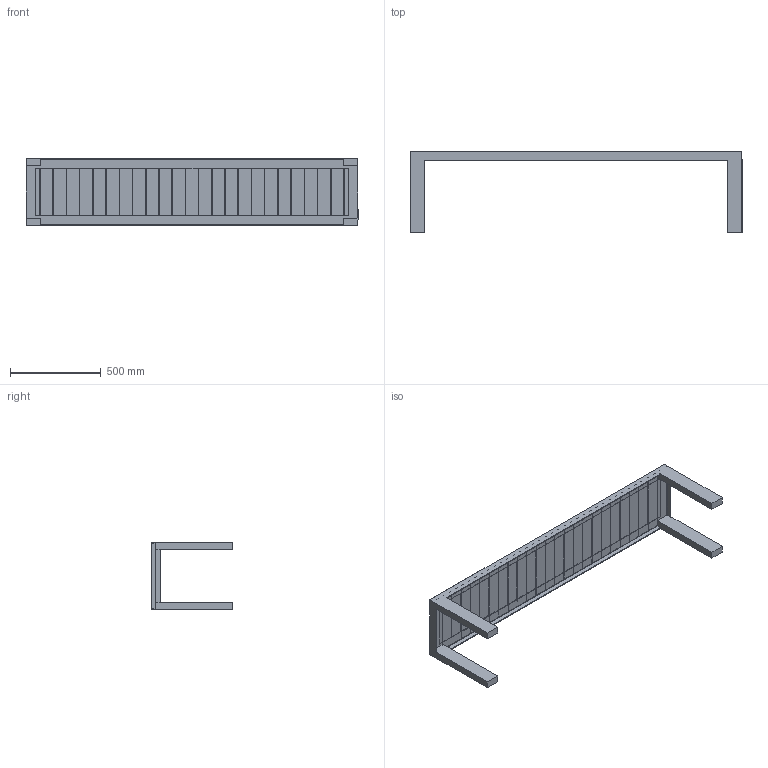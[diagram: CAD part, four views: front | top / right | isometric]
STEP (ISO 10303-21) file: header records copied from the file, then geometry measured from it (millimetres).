
FILE_DESCRIPTION(/* description */ (''),/* implementation_level */ '2;1');
FILE_NAME(/* name */ 'C:\INVENTOR\Workspace\# ARKITEKT FILER\Garden Dinner Bech\Garden Dinner Bench183.stp',/* time_stamp */ '2020-06-22T14:30:42+02:00',/* author */ ('Röshults'),/* organization */ (''),/* preprocessor_version */ 'ST-DEVELOPER v17.2',/* originating_system */ 'Autodesk Inventor 2019',/* authorisation */ '');
FILE_SCHEMA (('AUTOMOTIVE_DESIGN { 1 0 10303 214 3 1 1 }'));
Length unit declared in the file: millimetre
Products named in the file (1): Garden Dinner Bench183
Bounding box: 1834 x 450 x 370 mm (x, y, z)
Volume: 20198200 mm3; surface area: 2588620 mm2
Topology: 1 solids, 1 shells, 185 faces, 588 edges, 360 vertices
Faces by surface type: plane 185
Entity records: 6528 total; most frequent: ORIENTED_EDGE 1176, CARTESIAN_POINT 1134, DIRECTION 960, LINE 588, VECTOR 588, EDGE_CURVE 588, VERTEX_POINT 360, EDGE_LOOP 188
